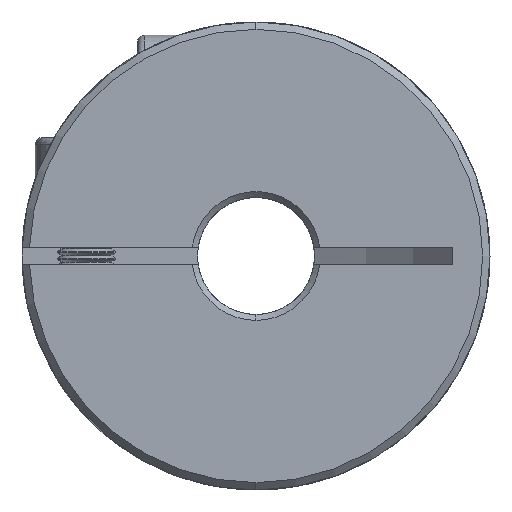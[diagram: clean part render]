
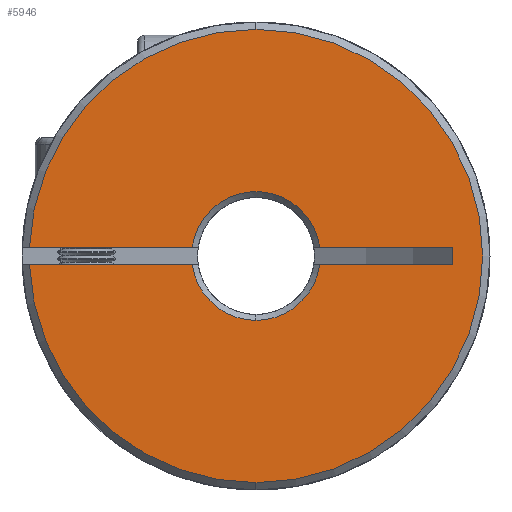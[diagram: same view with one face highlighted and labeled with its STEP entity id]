
A CAD part, front view. The second image highlights one B-rep face of the part: STEP entity #5946.
In plain terms, the highlighted planar face has unit normal (0, -1, 0).
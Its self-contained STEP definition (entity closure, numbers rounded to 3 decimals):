
#118 = AXIS2_PLACEMENT_3D ( 'NONE', #8850, #7173, #5338 ) ;
#175 = EDGE_CURVE ( 'NONE', #3016, #11152, #5868, .T. ) ;
#250 = CARTESIAN_POINT ( 'NONE',  ( 0., 0., 0. ) ) ;
#319 = ORIENTED_EDGE ( 'NONE', *, *, #6520, .T. ) ;
#462 = ORIENTED_EDGE ( 'NONE', *, *, #5372, .T. ) ;
#501 = AXIS2_PLACEMENT_3D ( 'NONE', #3027, #9924, #9047 ) ;
#697 = VERTEX_POINT ( 'NONE', #3018 ) ;
#769 = AXIS2_PLACEMENT_3D ( 'NONE', #9978, #2354, #2212 ) ;
#821 = CARTESIAN_POINT ( 'NONE',  ( -15.488, 0., 0.6 ) ) ;
#1091 = PLANE ( 'NONE',  #4834 ) ;
#1120 = CIRCLE ( 'NONE', #6541, 4.4 ) ;
#1144 = CARTESIAN_POINT ( 'NONE',  ( 13.436, 0., -0.6 ) ) ;
#1332 = AXIS2_PLACEMENT_3D ( 'NONE', #4628, #10687, #5493 ) ;
#1499 = CARTESIAN_POINT ( 'NONE',  ( 4.359, 0., -0.6 ) ) ;
#1973 = VECTOR ( 'NONE', #4742, 1000. ) ;
#2008 = ORIENTED_EDGE ( 'NONE', *, *, #5928, .F. ) ;
#2165 = VERTEX_POINT ( 'NONE', #1499 ) ;
#2194 = VERTEX_POINT ( 'NONE', #4701 ) ;
#2200 = DIRECTION ( 'NONE',  ( 0., 0., 1. ) ) ;
#2212 = DIRECTION ( 'NONE',  ( 0., 0., 1. ) ) ;
#2232 = DIRECTION ( 'NONE',  ( 0., -1., 0. ) ) ;
#2354 = DIRECTION ( 'NONE',  ( 0., -1., 0. ) ) ;
#2620 = CARTESIAN_POINT ( 'NONE',  ( -15.488, 0., -0.6 ) ) ;
#2870 = DIRECTION ( 'NONE',  ( 0., 0., -1. ) ) ;
#2897 = EDGE_CURVE ( 'NONE', #3495, #697, #6782, .T. ) ;
#2918 = DIRECTION ( 'NONE',  ( 1., 0., 0. ) ) ;
#3016 = VERTEX_POINT ( 'NONE', #2620 ) ;
#3018 = CARTESIAN_POINT ( 'NONE',  ( -4.359, 0., 0.6 ) ) ;
#3027 = CARTESIAN_POINT ( 'NONE',  ( 0., 0., 0. ) ) ;
#3060 = EDGE_LOOP ( 'NONE', ( #3468, #7555, #10941, #6983, #5536, #319, #8378, #462, #2008, #7295, #4967 ) ) ;
#3468 = ORIENTED_EDGE ( 'NONE', *, *, #7886, .F. ) ;
#3495 = VERTEX_POINT ( 'NONE', #821 ) ;
#3572 = CIRCLE ( 'NONE', #501, 4.4 ) ;
#3770 = EDGE_CURVE ( 'NONE', #11152, #6815, #10310, .T. ) ;
#3991 = CARTESIAN_POINT ( 'NONE',  ( -4.359, 0., -0.6 ) ) ;
#4125 = EDGE_CURVE ( 'NONE', #6268, #6713, #7980, .T. ) ;
#4127 = EDGE_CURVE ( 'NONE', #2194, #4747, #1120, .T. ) ;
#4193 = CARTESIAN_POINT ( 'NONE',  ( 4.359, 0., 0.6 ) ) ;
#4315 = LINE ( 'NONE', #1144, #5390 ) ;
#4339 = DIRECTION ( 'NONE',  ( 1., 0., 0. ) ) ;
#4628 = CARTESIAN_POINT ( 'NONE',  ( 0., 0., 0. ) ) ;
#4701 = CARTESIAN_POINT ( 'NONE',  ( 0., 0., -4.4 ) ) ;
#4742 = DIRECTION ( 'NONE',  ( 1., 0., 0. ) ) ;
#4747 = VERTEX_POINT ( 'NONE', #3991 ) ;
#4777 = CIRCLE ( 'NONE', #118, 15.5 ) ;
#4834 = AXIS2_PLACEMENT_3D ( 'NONE', #7282, #9099, #6519 ) ;
#4879 = CARTESIAN_POINT ( 'NONE',  ( 13.436, 0., 0.6 ) ) ;
#4967 = ORIENTED_EDGE ( 'NONE', *, *, #4127, .T. ) ;
#5148 = CARTESIAN_POINT ( 'NONE',  ( 0., 0., -15.5 ) ) ;
#5338 = DIRECTION ( 'NONE',  ( 0., 0., 1. ) ) ;
#5372 = EDGE_CURVE ( 'NONE', #6713, #6218, #4315, .T. ) ;
#5390 = VECTOR ( 'NONE', #2870, 1000. ) ;
#5424 = DIRECTION ( 'NONE',  ( 0., 1., 0. ) ) ;
#5493 = DIRECTION ( 'NONE',  ( 0., 0., 1. ) ) ;
#5536 = ORIENTED_EDGE ( 'NONE', *, *, #2897, .T. ) ;
#5868 = CIRCLE ( 'NONE', #6651, 15.5 ) ;
#5928 = EDGE_CURVE ( 'NONE', #2165, #6218, #7624, .T. ) ;
#5946 = ADVANCED_FACE ( 'NONE', ( #7989 ), #1091, .F. ) ;
#6218 = VERTEX_POINT ( 'NONE', #9475 ) ;
#6249 = DIRECTION ( 'NONE',  ( 0., 0., 1. ) ) ;
#6268 = VERTEX_POINT ( 'NONE', #4193 ) ;
#6519 = DIRECTION ( 'NONE',  ( 0., 0., 1. ) ) ;
#6520 = EDGE_CURVE ( 'NONE', #697, #6268, #11174, .T. ) ;
#6541 = AXIS2_PLACEMENT_3D ( 'NONE', #250, #5424, #6249 ) ;
#6651 = AXIS2_PLACEMENT_3D ( 'NONE', #9929, #2232, #2200 ) ;
#6713 = VERTEX_POINT ( 'NONE', #4879 ) ;
#6782 = LINE ( 'NONE', #9507, #8553 ) ;
#6815 = VERTEX_POINT ( 'NONE', #7600 ) ;
#6983 = ORIENTED_EDGE ( 'NONE', *, *, #7819, .T. ) ;
#7173 = DIRECTION ( 'NONE',  ( 0., -1., 0. ) ) ;
#7195 = VECTOR ( 'NONE', #10805, 1000. ) ;
#7196 = CARTESIAN_POINT ( 'NONE',  ( -50., 0., 0.6 ) ) ;
#7282 = CARTESIAN_POINT ( 'NONE',  ( -50., 0., -18.413 ) ) ;
#7295 = ORIENTED_EDGE ( 'NONE', *, *, #8949, .T. ) ;
#7321 = CARTESIAN_POINT ( 'NONE',  ( -50., 0., -0.6 ) ) ;
#7555 = ORIENTED_EDGE ( 'NONE', *, *, #175, .T. ) ;
#7600 = CARTESIAN_POINT ( 'NONE',  ( 0., 0., 15.5 ) ) ;
#7624 = LINE ( 'NONE', #7321, #7195 ) ;
#7819 = EDGE_CURVE ( 'NONE', #6815, #3495, #4777, .T. ) ;
#7886 = EDGE_CURVE ( 'NONE', #3016, #4747, #11150, .T. ) ;
#7980 = LINE ( 'NONE', #7196, #9068 ) ;
#7989 = FACE_OUTER_BOUND ( 'NONE', #3060, .T. ) ;
#8378 = ORIENTED_EDGE ( 'NONE', *, *, #4125, .T. ) ;
#8553 = VECTOR ( 'NONE', #4339, 1000. ) ;
#8850 = CARTESIAN_POINT ( 'NONE',  ( 0., 0., 0. ) ) ;
#8949 = EDGE_CURVE ( 'NONE', #2165, #2194, #3572, .T. ) ;
#9047 = DIRECTION ( 'NONE',  ( 0., 0., 1. ) ) ;
#9068 = VECTOR ( 'NONE', #2918, 1000. ) ;
#9099 = DIRECTION ( 'NONE',  ( 0., 1., 0. ) ) ;
#9475 = CARTESIAN_POINT ( 'NONE',  ( 13.436, 0., -0.6 ) ) ;
#9507 = CARTESIAN_POINT ( 'NONE',  ( -50., 0., 0.6 ) ) ;
#9687 = CARTESIAN_POINT ( 'NONE',  ( -50., 0., -0.6 ) ) ;
#9924 = DIRECTION ( 'NONE',  ( 0., 1., 0. ) ) ;
#9929 = CARTESIAN_POINT ( 'NONE',  ( 0., 0., 0. ) ) ;
#9978 = CARTESIAN_POINT ( 'NONE',  ( 0., 0., 0. ) ) ;
#10310 = CIRCLE ( 'NONE', #769, 15.5 ) ;
#10687 = DIRECTION ( 'NONE',  ( 0., 1., 0. ) ) ;
#10805 = DIRECTION ( 'NONE',  ( 1., 0., 0. ) ) ;
#10941 = ORIENTED_EDGE ( 'NONE', *, *, #3770, .T. ) ;
#11150 = LINE ( 'NONE', #9687, #1973 ) ;
#11152 = VERTEX_POINT ( 'NONE', #5148 ) ;
#11174 = CIRCLE ( 'NONE', #1332, 4.4 ) ;
